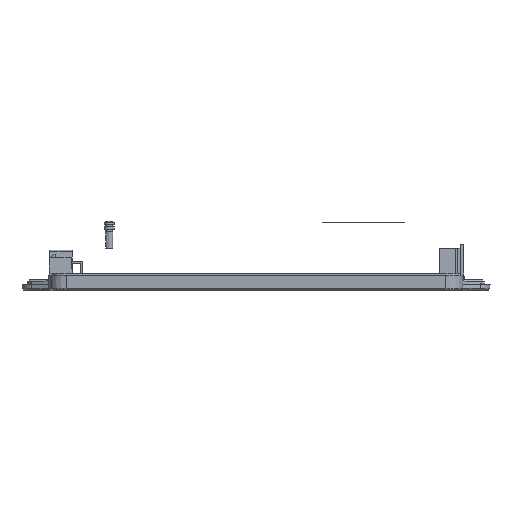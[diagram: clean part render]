
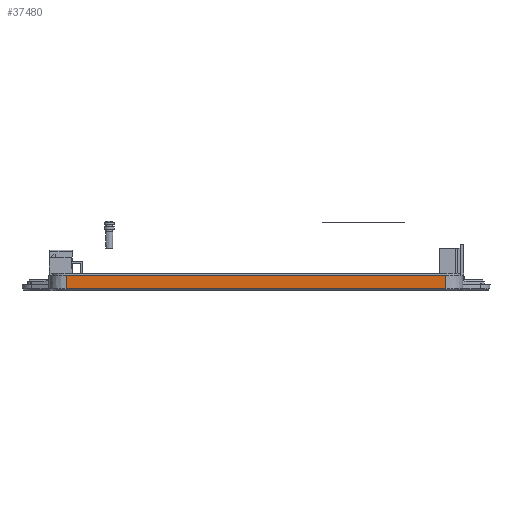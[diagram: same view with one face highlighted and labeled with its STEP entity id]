
A CAD part, front view. The second image highlights one B-rep face of the part: STEP entity #37480.
In plain terms, the highlighted planar face has unit normal (0, -1, -0.026).
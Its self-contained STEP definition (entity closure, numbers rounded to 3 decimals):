
#6259=ORIENTED_EDGE('',*,*,#12447,.F.);
#6260=ORIENTED_EDGE('',*,*,#12348,.T.);
#6261=ORIENTED_EDGE('',*,*,#12448,.F.);
#6262=ORIENTED_EDGE('',*,*,#12449,.T.);
#12348=EDGE_CURVE('',#15614,#15615,#18244,.T.);
#12447=EDGE_CURVE('',#15614,#15676,#18307,.T.);
#12448=EDGE_CURVE('',#15677,#15615,#18308,.T.);
#12449=EDGE_CURVE('',#15677,#15676,#18309,.T.);
#15614=VERTEX_POINT('',#56088);
#15615=VERTEX_POINT('',#56089);
#15676=VERTEX_POINT('',#56361);
#15677=VERTEX_POINT('',#56363);
#18244=LINE('',#56087,#21156);
#18307=LINE('',#56360,#21219);
#18308=LINE('',#56362,#21220);
#18309=LINE('',#56364,#21221);
#21156=VECTOR('',#43429,1000.);
#21219=VECTOR('',#43592,1000.);
#21220=VECTOR('',#43593,1000.);
#21221=VECTOR('',#43594,1000.);
#23356=EDGE_LOOP('',(#6259,#6260,#6261,#6262));
#25017=FACE_BOUND('',#23356,.T.);
#26316=PLANE('',#39086);
#37480=ADVANCED_FACE('',(#25017),#26316,.F.);
#39086=AXIS2_PLACEMENT_3D('',#56359,#43590,#43591);
#43429=DIRECTION('',(0.,0.026,-1.));
#43590=DIRECTION('',(0.,1.,0.026));
#43591=DIRECTION('',(0.,-0.026,1.));
#43592=DIRECTION('',(1.,0.,0.));
#43593=DIRECTION('',(-1.,0.,0.));
#43594=DIRECTION('',(0.,-0.026,1.));
#56087=CARTESIAN_POINT('',(-111.,-47.197,9.));
#56088=CARTESIAN_POINT('',(-111.,-47.197,9.));
#56089=CARTESIAN_POINT('',(-111.,-46.987,1.));
#56359=CARTESIAN_POINT('',(0.,-47.092,5.));
#56360=CARTESIAN_POINT('',(-111.,-47.197,9.));
#56361=CARTESIAN_POINT('',(111.,-47.197,9.));
#56362=CARTESIAN_POINT('',(111.,-46.987,1.));
#56363=CARTESIAN_POINT('',(111.,-46.987,1.));
#56364=CARTESIAN_POINT('',(111.,-46.987,1.));
